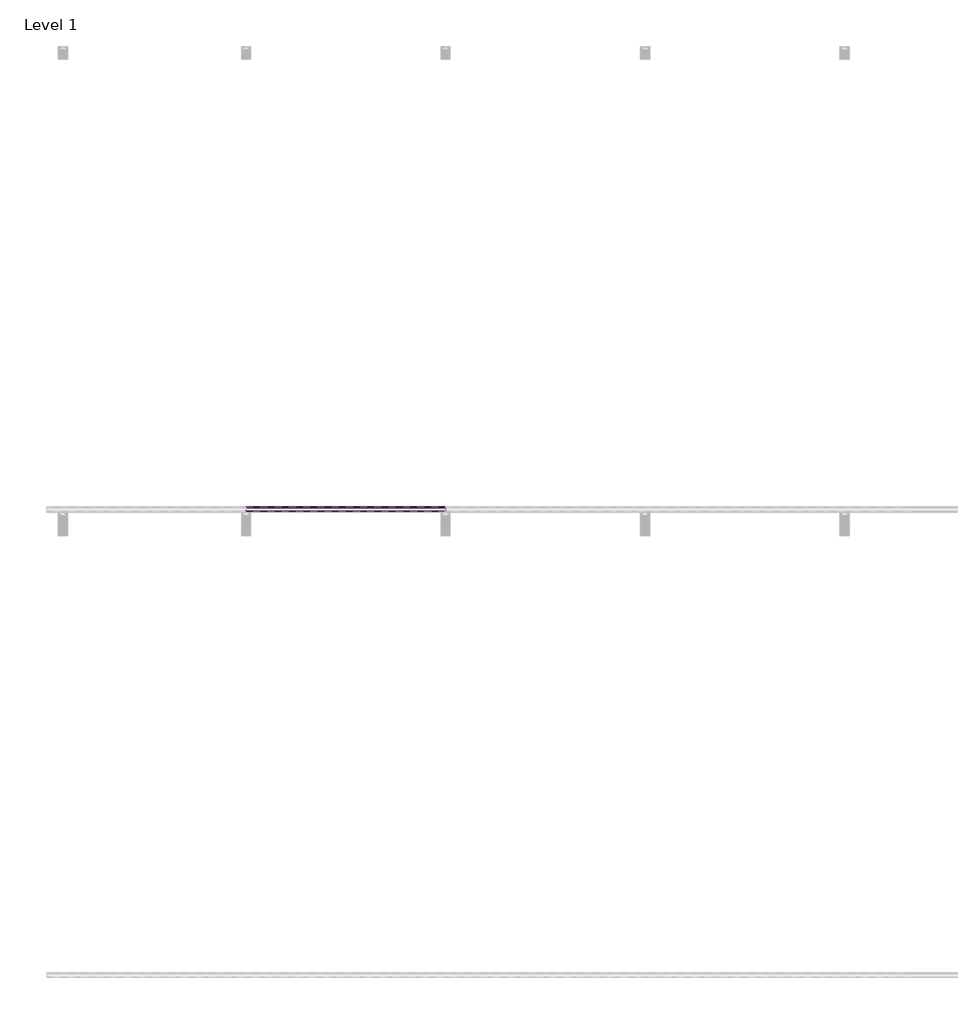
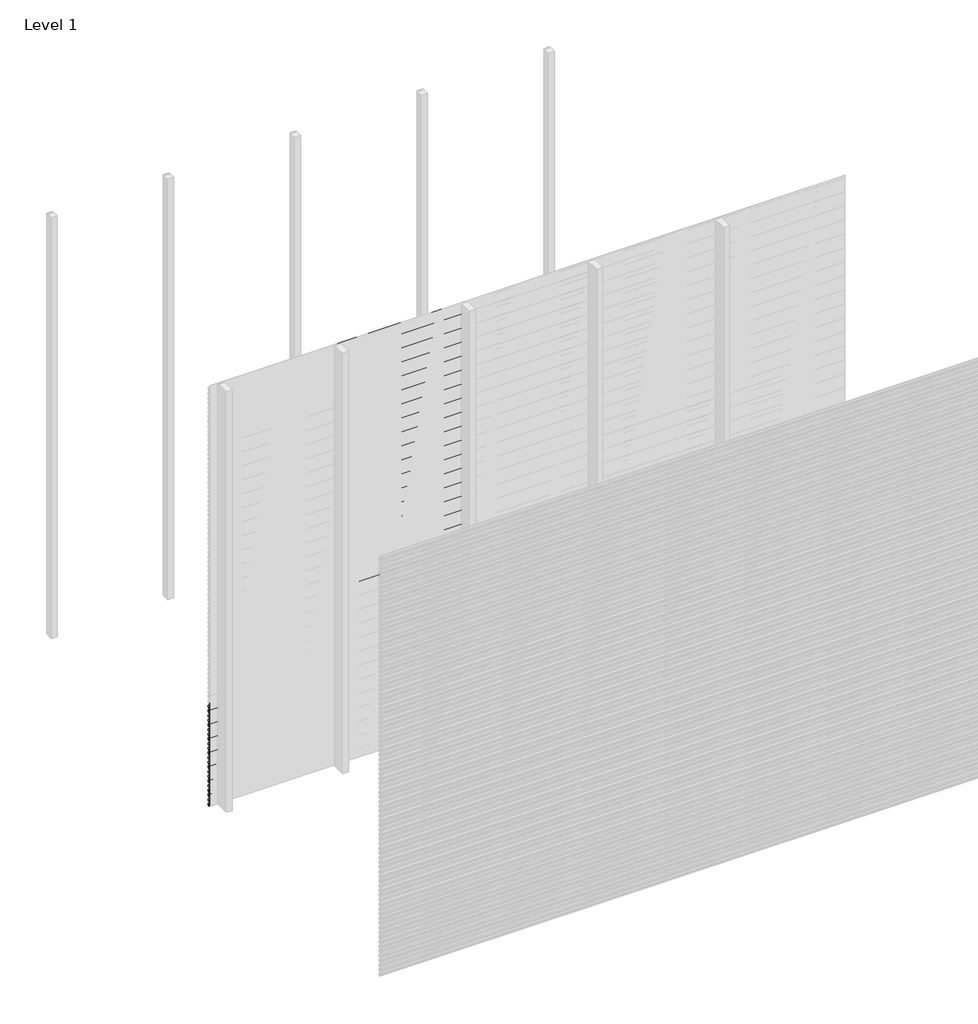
# One storey, part 34 of 96: 77 proxies.
"""IFC4 building model written with IfcOpenShell, lengths in millimetres."""

from ifc_helpers import new_model, si_unit, frame, origin, place, context, project, spatial, polyline, outline, extrude, element, save

model = new_model("IFC4")

# Units and contexts
model_context = context("Model", 3, world=origin())
ifc_project = project(units=[si_unit("LENGTHUNIT", "METRE", prefix="MILLI")], contexts=[model_context])

# Site, building, storey
site = spatial("IfcSite", under=ifc_project)
building = spatial("IfcBuilding", under=site)
storey = spatial("IfcBuildingStorey", under=building, Name="Level 1", Elevation=0.0)

# Proxies
placement = place(None, origin())
element("IfcBuildingElementProxy", 1, Name="Wall Sweeps", at=placement, inside=storey, context=model_context, shape_type="SweptSolid", body=[
    extrude(outline(polyline([(-35977.6, 707.3655033), (-35977.6, 693.0779188), (-35982.4114965, 690.3), (-35982.4114965, 691.5701706), (-35978.85, 693.6264016), (-35978.85, 706.6437382), (-35998.0, 717.7000799), (-35998.0, 732.6), (-35996.75, 732.6), (-35996.75, 718.4217609), (-35977.6, 707.3655033)])), frame((0.0, 0.0, 0.0), z_axis=(1.0, 0.0, 0.0), x_axis=(0.0, 1.0, 0.0)), (0.0, 0.0, 1.0), 857.1428571),
])
element("IfcBuildingElementProxy", 2, Name="Wall Sweeps", at=placement, inside=storey, context=model_context, shape_type="SweptSolid", body=[
    extrude(outline(polyline([(-35977.6, 674.0655033), (-35977.6, 659.7779188), (-35982.4114965, 657.0), (-35982.4114965, 658.2701706), (-35978.85, 660.3264016), (-35978.85, 673.3437382), (-35998.0, 684.4000799), (-35998.0, 699.3), (-35996.75, 699.3), (-35996.75, 685.1217609), (-35977.6, 674.0655033)])), frame((0.0, 0.0, 0.0), z_axis=(1.0, 0.0, 0.0), x_axis=(0.0, 1.0, 0.0)), (0.0, 0.0, 1.0), 857.1428571),
])
element("IfcBuildingElementProxy", 3, Name="Wall Sweeps", at=placement, inside=storey, context=model_context, shape_type="SweptSolid", body=[
    extrude(outline(polyline([(-35977.6, 640.7655033), (-35977.6, 626.4779188), (-35982.4114965, 623.7), (-35982.4114965, 624.9701706), (-35978.85, 627.0264016), (-35978.85, 640.0437382), (-35998.0, 651.1000799), (-35998.0, 666.0), (-35996.75, 666.0), (-35996.75, 651.8217609), (-35977.6, 640.7655033)])), frame((0.0, 0.0, 0.0), z_axis=(1.0, 0.0, 0.0), x_axis=(0.0, 1.0, 0.0)), (0.0, 0.0, 1.0), 857.1428571),
])
element("IfcBuildingElementProxy", 4, Name="Wall Sweeps", at=placement, inside=storey, context=model_context, shape_type="SweptSolid", body=[
    extrude(outline(polyline([(-35977.6, 607.4655033), (-35977.6, 593.1779188), (-35982.4114965, 590.4), (-35982.4114965, 591.6701706), (-35978.85, 593.7264016), (-35978.85, 606.7437382), (-35998.0, 617.8000799), (-35998.0, 632.7), (-35996.75, 632.7), (-35996.75, 618.5217609), (-35977.6, 607.4655033)])), frame((0.0, 0.0, 0.0), z_axis=(1.0, 0.0, 0.0), x_axis=(0.0, 1.0, 0.0)), (0.0, 0.0, 1.0), 857.1428571),
])
element("IfcBuildingElementProxy", 5, Name="Wall Sweeps", at=placement, inside=storey, context=model_context, shape_type="SweptSolid", body=[
    extrude(outline(polyline([(-35977.6, 574.1655033), (-35977.6, 559.8779188), (-35982.4114965, 557.1), (-35982.4114965, 558.3701706), (-35978.85, 560.4264016), (-35978.85, 573.4437382), (-35998.0, 584.5000799), (-35998.0, 599.4), (-35996.75, 599.4), (-35996.75, 585.2217609), (-35977.6, 574.1655033)])), frame((0.0, 0.0, 0.0), z_axis=(1.0, 0.0, 0.0), x_axis=(0.0, 1.0, 0.0)), (0.0, 0.0, 1.0), 857.1428571),
])
element("IfcBuildingElementProxy", 6, Name="Wall Sweeps", at=placement, inside=storey, context=model_context, shape_type="SweptSolid", body=[
    extrude(outline(polyline([(-35977.6, 540.8655033), (-35977.6, 526.5779188), (-35982.4114965, 523.8), (-35982.4114965, 525.0701706), (-35978.85, 527.1264016), (-35978.85, 540.1437382), (-35998.0, 551.2000799), (-35998.0, 566.1), (-35996.75, 566.1), (-35996.75, 551.9217609), (-35977.6, 540.8655033)])), frame((0.0, 0.0, 0.0), z_axis=(1.0, 0.0, 0.0), x_axis=(0.0, 1.0, 0.0)), (0.0, 0.0, 1.0), 857.1428571),
])
element("IfcBuildingElementProxy", 7, Name="Wall Sweeps", at=placement, inside=storey, context=model_context, shape_type="SweptSolid", body=[
    extrude(outline(polyline([(-35977.6, 507.5655033), (-35977.6, 493.2779188), (-35982.4114965, 490.5), (-35982.4114965, 491.7701706), (-35978.85, 493.8264016), (-35978.85, 506.8437382), (-35998.0, 517.9000799), (-35998.0, 532.8), (-35996.75, 532.8), (-35996.75, 518.6217609), (-35977.6, 507.5655033)])), frame((0.0, 0.0, 0.0), z_axis=(1.0, 0.0, 0.0), x_axis=(0.0, 1.0, 0.0)), (0.0, 0.0, 1.0), 857.1428571),
])
element("IfcBuildingElementProxy", 8, Name="Wall Sweeps", at=placement, inside=storey, context=model_context, shape_type="SweptSolid", body=[
    extrude(outline(polyline([(-35977.6, 474.2655033), (-35977.6, 459.9779188), (-35982.4114965, 457.2), (-35982.4114965, 458.4701706), (-35978.85, 460.5264016), (-35978.85, 473.5437382), (-35998.0, 484.6000799), (-35998.0, 499.5), (-35996.75, 499.5), (-35996.75, 485.3217609), (-35977.6, 474.2655033)])), frame((0.0, 0.0, 0.0), z_axis=(1.0, 0.0, 0.0), x_axis=(0.0, 1.0, 0.0)), (0.0, 0.0, 1.0), 857.1428571),
])
element("IfcBuildingElementProxy", 9, Name="Wall Sweeps", at=placement, inside=storey, context=model_context, shape_type="SweptSolid", body=[
    extrude(outline(polyline([(-35977.6, 440.9655033), (-35977.6, 426.6779188), (-35982.4114965, 423.9), (-35982.4114965, 425.1701706), (-35978.85, 427.2264016), (-35978.85, 440.2437382), (-35998.0, 451.3000799), (-35998.0, 466.2), (-35996.75, 466.2), (-35996.75, 452.0217609), (-35977.6, 440.9655033)])), frame((0.0, 0.0, 0.0), z_axis=(1.0, 0.0, 0.0), x_axis=(0.0, 1.0, 0.0)), (0.0, 0.0, 1.0), 857.1428571),
])
element("IfcBuildingElementProxy", 10, Name="Wall Sweeps", at=placement, inside=storey, context=model_context, shape_type="SweptSolid", body=[
    extrude(outline(polyline([(-35977.6, 407.6655033), (-35977.6, 393.3779188), (-35982.4114965, 390.6), (-35982.4114965, 391.8701706), (-35978.85, 393.9264016), (-35978.85, 406.9437382), (-35998.0, 418.0000799), (-35998.0, 432.9), (-35996.75, 432.9), (-35996.75, 418.7217609), (-35977.6, 407.6655033)])), frame((0.0, 0.0, 0.0), z_axis=(1.0, 0.0, 0.0), x_axis=(0.0, 1.0, 0.0)), (0.0, 0.0, 1.0), 857.1428571),
])
element("IfcBuildingElementProxy", 11, Name="Wall Sweeps", at=placement, inside=storey, context=model_context, shape_type="SweptSolid", body=[
    extrude(outline(polyline([(-35977.6, 374.3655033), (-35977.6, 360.0779188), (-35982.4114965, 357.3), (-35982.4114965, 358.5701706), (-35978.85, 360.6264016), (-35978.85, 373.6437382), (-35998.0, 384.7000799), (-35998.0, 399.6), (-35996.75, 399.6), (-35996.75, 385.4217609), (-35977.6, 374.3655033)])), frame((0.0, 0.0, 0.0), z_axis=(1.0, 0.0, 0.0), x_axis=(0.0, 1.0, 0.0)), (0.0, 0.0, 1.0), 857.1428571),
])
element("IfcBuildingElementProxy", 12, Name="Wall Sweeps", at=placement, inside=storey, context=model_context, shape_type="SweptSolid", body=[
    extrude(outline(polyline([(-35977.6, 341.0655033), (-35977.6, 326.7779188), (-35982.4114965, 324.0), (-35982.4114965, 325.2701706), (-35978.85, 327.3264016), (-35978.85, 340.3437382), (-35998.0, 351.4000799), (-35998.0, 366.3), (-35996.75, 366.3), (-35996.75, 352.1217609), (-35977.6, 341.0655033)])), frame((0.0, 0.0, 0.0), z_axis=(1.0, 0.0, 0.0), x_axis=(0.0, 1.0, 0.0)), (0.0, 0.0, 1.0), 857.1428571),
])
element("IfcBuildingElementProxy", 13, Name="Wall Sweeps", at=placement, inside=storey, context=model_context, shape_type="SweptSolid", body=[
    extrude(outline(polyline([(-35977.6, 307.7655033), (-35977.6, 293.4779188), (-35982.4114965, 290.7), (-35982.4114965, 291.9701706), (-35978.85, 294.0264016), (-35978.85, 307.0437382), (-35998.0, 318.1000799), (-35998.0, 333.0), (-35996.75, 333.0), (-35996.75, 318.8217609), (-35977.6, 307.7655033)])), frame((0.0, 0.0, 0.0), z_axis=(1.0, 0.0, 0.0), x_axis=(0.0, 1.0, 0.0)), (0.0, 0.0, 1.0), 857.1428571),
])
element("IfcBuildingElementProxy", 14, Name="Wall Sweeps", at=placement, inside=storey, context=model_context, shape_type="SweptSolid", body=[
    extrude(outline(polyline([(-35977.6, 274.4655033), (-35977.6, 260.1779188), (-35982.4114965, 257.4), (-35982.4114965, 258.6701706), (-35978.85, 260.7264016), (-35978.85, 273.7437382), (-35998.0, 284.8000799), (-35998.0, 299.7), (-35996.75, 299.7), (-35996.75, 285.5217609), (-35977.6, 274.4655033)])), frame((0.0, 0.0, 0.0), z_axis=(1.0, 0.0, 0.0), x_axis=(0.0, 1.0, 0.0)), (0.0, 0.0, 1.0), 857.1428571),
])
element("IfcBuildingElementProxy", 15, Name="Wall Sweeps", at=placement, inside=storey, context=model_context, shape_type="SweptSolid", body=[
    extrude(outline(polyline([(-35977.6, 241.1655033), (-35977.6, 226.8779188), (-35982.4114965, 224.1), (-35982.4114965, 225.3701706), (-35978.85, 227.4264016), (-35978.85, 240.4437382), (-35998.0, 251.5000799), (-35998.0, 266.4), (-35996.75, 266.4), (-35996.75, 252.2217609), (-35977.6, 241.1655033)])), frame((0.0, 0.0, 0.0), z_axis=(1.0, 0.0, 0.0), x_axis=(0.0, 1.0, 0.0)), (0.0, 0.0, 1.0), 857.1428571),
])
element("IfcBuildingElementProxy", 16, Name="Wall Sweeps", at=placement, inside=storey, context=model_context, shape_type="SweptSolid", body=[
    extrude(outline(polyline([(-35977.6, 207.8655033), (-35977.6, 193.5779188), (-35982.4114965, 190.8), (-35982.4114965, 192.0701706), (-35978.85, 194.1264016), (-35978.85, 207.1437382), (-35998.0, 218.2000799), (-35998.0, 233.1), (-35996.75, 233.1), (-35996.75, 218.9217609), (-35977.6, 207.8655033)])), frame((0.0, 0.0, 0.0), z_axis=(1.0, 0.0, 0.0), x_axis=(0.0, 1.0, 0.0)), (0.0, 0.0, 1.0), 857.1428571),
])
element("IfcBuildingElementProxy", 17, Name="Wall Sweeps", at=placement, inside=storey, context=model_context, shape_type="SweptSolid", body=[
    extrude(outline(polyline([(-35977.6, 174.5655033), (-35977.6, 160.2779188), (-35982.4114965, 157.5), (-35982.4114965, 158.7701706), (-35978.85, 160.8264016), (-35978.85, 173.8437382), (-35998.0, 184.9000799), (-35998.0, 199.8), (-35996.75, 199.8), (-35996.75, 185.6217609), (-35977.6, 174.5655033)])), frame((0.0, 0.0, 0.0), z_axis=(1.0, 0.0, 0.0), x_axis=(0.0, 1.0, 0.0)), (0.0, 0.0, 1.0), 857.1428571),
])
element("IfcBuildingElementProxy", 18, Name="Wall Sweeps", at=placement, inside=storey, context=model_context, shape_type="SweptSolid", body=[
    extrude(outline(polyline([(-35977.6, 141.2655033), (-35977.6, 126.9779188), (-35982.4114965, 124.2), (-35982.4114965, 125.4701706), (-35978.85, 127.5264016), (-35978.85, 140.5437382), (-35998.0, 151.6000799), (-35998.0, 166.5), (-35996.75, 166.5), (-35996.75, 152.3217609), (-35977.6, 141.2655033)])), frame((0.0, 0.0, 0.0), z_axis=(1.0, 0.0, 0.0), x_axis=(0.0, 1.0, 0.0)), (0.0, 0.0, 1.0), 857.1428571),
])
element("IfcBuildingElementProxy", 19, Name="Wall Sweeps", at=placement, inside=storey, context=model_context, shape_type="SweptSolid", body=[
    extrude(outline(polyline([(-35977.6, 107.9655033), (-35977.6, 93.6779188), (-35982.4114965, 90.9), (-35982.4114965, 92.1701706), (-35978.85, 94.2264016), (-35978.85, 107.2437382), (-35998.0, 118.3000799), (-35998.0, 133.2), (-35996.75, 133.2), (-35996.75, 119.0217609), (-35977.6, 107.9655033)])), frame((0.0, 0.0, 0.0), z_axis=(1.0, 0.0, 0.0), x_axis=(0.0, 1.0, 0.0)), (0.0, 0.0, 1.0), 857.1428571),
])
element("IfcBuildingElementProxy", 20, Name="Wall Sweeps", at=placement, inside=storey, context=model_context, shape_type="SweptSolid", body=[
    extrude(outline(polyline([(-35977.6, 74.6655033), (-35977.6, 60.3779188), (-35982.4114965, 57.6), (-35982.4114965, 58.8701706), (-35978.85, 60.9264016), (-35978.85, 73.9437382), (-35998.0, 85.0000799), (-35998.0, 99.9), (-35996.75, 99.9), (-35996.75, 85.7217609), (-35977.6, 74.6655033)])), frame((0.0, 0.0, 0.0), z_axis=(1.0, 0.0, 0.0), x_axis=(0.0, 1.0, 0.0)), (0.0, 0.0, 1.0), 857.1428571),
])
element("IfcBuildingElementProxy", 21, Name="Wall Sweeps", at=placement, inside=storey, context=model_context, shape_type="SweptSolid", body=[
    extrude(outline(polyline([(-35977.6, 41.3655033), (-35977.6, 27.0779188), (-35982.4114965, 24.3), (-35982.4114965, 25.5701706), (-35978.85, 27.6264016), (-35978.85, 40.6437382), (-35998.0, 51.7000799), (-35998.0, 66.6), (-35996.75, 66.6), (-35996.75, 52.4217609), (-35977.6, 41.3655033)])), frame((0.0, 0.0, 0.0), z_axis=(1.0, 0.0, 0.0), x_axis=(0.0, 1.0, 0.0)), (0.0, 0.0, 1.0), 857.1428571),
])
element("IfcBuildingElementProxy", 22, Name="Wall Sweeps", at=placement, inside=storey, context=model_context, shape_type="SweptSolid", body=[
    extrude(outline(polyline([(-35977.6, 8.0655033), (-35977.6, -6.2220812), (-35982.4114965, -9.0), (-35982.4114965, -7.7298294), (-35978.85, -5.6735984), (-35978.85, 7.3437382), (-35998.0, 18.4000799), (-35998.0, 33.3), (-35996.75, 33.3), (-35996.75, 19.1217609), (-35977.6, 8.0655033)])), frame((0.0, 0.0, 0.0), z_axis=(1.0, 0.0, 0.0), x_axis=(0.0, 1.0, 0.0)), (0.0, 0.0, 1.0), 857.1428571),
])
element("IfcBuildingElementProxy", 23, Name="Wall Sweeps", at=placement, inside=storey, context=model_context, shape_type="SweptSolid", body=[
    extrude(outline(polyline([(-35977.6, 2971.7655033), (-35977.6, 2957.4779188), (-35982.4114965, 2954.7), (-35982.4114965, 2955.9701706), (-35978.85, 2958.0264016), (-35978.85, 2971.0437382), (-35998.0, 2982.1000799), (-35998.0, 2997.0), (-35996.75, 2997.0), (-35996.75, 2982.8217609), (-35977.6, 2971.7655033)])), frame((857.1428571, 0.0, 0.0), z_axis=(1.0, 0.0, 0.0), x_axis=(0.0, 1.0, 0.0)), (0.0, 0.0, 1.0), 857.1428571),
])
element("IfcBuildingElementProxy", 24, Name="Wall Sweeps", at=placement, inside=storey, context=model_context, shape_type="SweptSolid", body=[
    extrude(outline(polyline([(-35977.6, 2938.4655033), (-35977.6, 2924.1779188), (-35982.4114965, 2921.4), (-35982.4114965, 2922.6701706), (-35978.85, 2924.7264016), (-35978.85, 2937.7437382), (-35998.0, 2948.8000799), (-35998.0, 2963.7), (-35996.75, 2963.7), (-35996.75, 2949.5217609), (-35977.6, 2938.4655033)])), frame((857.1428571, 0.0, 0.0), z_axis=(1.0, 0.0, 0.0), x_axis=(0.0, 1.0, 0.0)), (0.0, 0.0, 1.0), 857.1428571),
])
element("IfcBuildingElementProxy", 25, Name="Wall Sweeps", at=placement, inside=storey, context=model_context, shape_type="SweptSolid", body=[
    extrude(outline(polyline([(-35977.6, 2905.1655033), (-35977.6, 2890.8779188), (-35982.4114965, 2888.1), (-35982.4114965, 2889.3701706), (-35978.85, 2891.4264016), (-35978.85, 2904.4437382), (-35998.0, 2915.5000799), (-35998.0, 2930.4), (-35996.75, 2930.4), (-35996.75, 2916.2217609), (-35977.6, 2905.1655033)])), frame((857.1428571, 0.0, 0.0), z_axis=(1.0, 0.0, 0.0), x_axis=(0.0, 1.0, 0.0)), (0.0, 0.0, 1.0), 857.1428571),
])
element("IfcBuildingElementProxy", 26, Name="Wall Sweeps", at=placement, inside=storey, context=model_context, shape_type="SweptSolid", body=[
    extrude(outline(polyline([(-35977.6, 2871.8655033), (-35977.6, 2857.5779188), (-35982.4114965, 2854.8), (-35982.4114965, 2856.0701706), (-35978.85, 2858.1264016), (-35978.85, 2871.1437382), (-35998.0, 2882.2000799), (-35998.0, 2897.1), (-35996.75, 2897.1), (-35996.75, 2882.9217609), (-35977.6, 2871.8655033)])), frame((857.1428571, 0.0, 0.0), z_axis=(1.0, 0.0, 0.0), x_axis=(0.0, 1.0, 0.0)), (0.0, 0.0, 1.0), 857.1428571),
])
element("IfcBuildingElementProxy", 27, Name="Wall Sweeps", at=placement, inside=storey, context=model_context, shape_type="SweptSolid", body=[
    extrude(outline(polyline([(-35977.6, 2838.5655033), (-35977.6, 2824.2779188), (-35982.4114965, 2821.5), (-35982.4114965, 2822.7701706), (-35978.85, 2824.8264016), (-35978.85, 2837.8437382), (-35998.0, 2848.9000799), (-35998.0, 2863.8), (-35996.75, 2863.8), (-35996.75, 2849.6217609), (-35977.6, 2838.5655033)])), frame((857.1428571, 0.0, 0.0), z_axis=(1.0, 0.0, 0.0), x_axis=(0.0, 1.0, 0.0)), (0.0, 0.0, 1.0), 857.1428571),
])
element("IfcBuildingElementProxy", 28, Name="Wall Sweeps", at=placement, inside=storey, context=model_context, shape_type="SweptSolid", body=[
    extrude(outline(polyline([(-35977.6, 2805.2655033), (-35977.6, 2790.9779188), (-35982.4114965, 2788.2), (-35982.4114965, 2789.4701706), (-35978.85, 2791.5264016), (-35978.85, 2804.5437382), (-35998.0, 2815.6000799), (-35998.0, 2830.5), (-35996.75, 2830.5), (-35996.75, 2816.3217609), (-35977.6, 2805.2655033)])), frame((857.1428571, 0.0, 0.0), z_axis=(1.0, 0.0, 0.0), x_axis=(0.0, 1.0, 0.0)), (0.0, 0.0, 1.0), 857.1428571),
])
element("IfcBuildingElementProxy", 29, Name="Wall Sweeps", at=placement, inside=storey, context=model_context, shape_type="SweptSolid", body=[
    extrude(outline(polyline([(-35977.6, 2771.9655033), (-35977.6, 2757.6779188), (-35982.4114965, 2754.9), (-35982.4114965, 2756.1701706), (-35978.85, 2758.2264016), (-35978.85, 2771.2437382), (-35998.0, 2782.3000799), (-35998.0, 2797.2), (-35996.75, 2797.2), (-35996.75, 2783.0217609), (-35977.6, 2771.9655033)])), frame((857.1428571, 0.0, 0.0), z_axis=(1.0, 0.0, 0.0), x_axis=(0.0, 1.0, 0.0)), (0.0, 0.0, 1.0), 857.1428571),
])
element("IfcBuildingElementProxy", 30, Name="Wall Sweeps", at=placement, inside=storey, context=model_context, shape_type="SweptSolid", body=[
    extrude(outline(polyline([(-35977.6, 2738.6655033), (-35977.6, 2724.3779188), (-35982.4114965, 2721.6), (-35982.4114965, 2722.8701706), (-35978.85, 2724.9264016), (-35978.85, 2737.9437382), (-35998.0, 2749.0000799), (-35998.0, 2763.9), (-35996.75, 2763.9), (-35996.75, 2749.7217609), (-35977.6, 2738.6655033)])), frame((857.1428571, 0.0, 0.0), z_axis=(1.0, 0.0, 0.0), x_axis=(0.0, 1.0, 0.0)), (0.0, 0.0, 1.0), 857.1428571),
])
element("IfcBuildingElementProxy", 31, Name="Wall Sweeps", at=placement, inside=storey, context=model_context, shape_type="SweptSolid", body=[
    extrude(outline(polyline([(-35977.6, 2705.3655033), (-35977.6, 2691.0779188), (-35982.4114965, 2688.3), (-35982.4114965, 2689.5701706), (-35978.85, 2691.6264016), (-35978.85, 2704.6437382), (-35998.0, 2715.7000799), (-35998.0, 2730.6), (-35996.75, 2730.6), (-35996.75, 2716.4217609), (-35977.6, 2705.3655033)])), frame((857.1428571, 0.0, 0.0), z_axis=(1.0, 0.0, 0.0), x_axis=(0.0, 1.0, 0.0)), (0.0, 0.0, 1.0), 857.1428571),
])
element("IfcBuildingElementProxy", 32, Name="Wall Sweeps", at=placement, inside=storey, context=model_context, shape_type="SweptSolid", body=[
    extrude(outline(polyline([(-35977.6, 2672.0655033), (-35977.6, 2657.7779188), (-35982.4114965, 2655.0), (-35982.4114965, 2656.2701706), (-35978.85, 2658.3264016), (-35978.85, 2671.3437382), (-35998.0, 2682.4000799), (-35998.0, 2697.3), (-35996.75, 2697.3), (-35996.75, 2683.1217609), (-35977.6, 2672.0655033)])), frame((857.1428571, 0.0, 0.0), z_axis=(1.0, 0.0, 0.0), x_axis=(0.0, 1.0, 0.0)), (0.0, 0.0, 1.0), 857.1428571),
])
element("IfcBuildingElementProxy", 33, Name="Wall Sweeps", at=placement, inside=storey, context=model_context, shape_type="SweptSolid", body=[
    extrude(outline(polyline([(-35977.6, 2638.7655033), (-35977.6, 2624.4779188), (-35982.4114965, 2621.7), (-35982.4114965, 2622.9701706), (-35978.85, 2625.0264016), (-35978.85, 2638.0437382), (-35998.0, 2649.1000799), (-35998.0, 2664.0), (-35996.75, 2664.0), (-35996.75, 2649.8217609), (-35977.6, 2638.7655033)])), frame((857.1428571, 0.0, 0.0), z_axis=(1.0, 0.0, 0.0), x_axis=(0.0, 1.0, 0.0)), (0.0, 0.0, 1.0), 857.1428571),
])
element("IfcBuildingElementProxy", 34, Name="Wall Sweeps", at=placement, inside=storey, context=model_context, shape_type="SweptSolid", body=[
    extrude(outline(polyline([(-35977.6, 2605.4655033), (-35977.6, 2591.1779188), (-35982.4114965, 2588.4), (-35982.4114965, 2589.6701706), (-35978.85, 2591.7264016), (-35978.85, 2604.7437382), (-35998.0, 2615.8000799), (-35998.0, 2630.7), (-35996.75, 2630.7), (-35996.75, 2616.5217609), (-35977.6, 2605.4655033)])), frame((857.1428571, 0.0, 0.0), z_axis=(1.0, 0.0, 0.0), x_axis=(0.0, 1.0, 0.0)), (0.0, 0.0, 1.0), 857.1428571),
])
element("IfcBuildingElementProxy", 35, Name="Wall Sweeps", at=placement, inside=storey, context=model_context, shape_type="SweptSolid", body=[
    extrude(outline(polyline([(-35977.6, 2572.1655033), (-35977.6, 2557.8779188), (-35982.4114965, 2555.1), (-35982.4114965, 2556.3701706), (-35978.85, 2558.4264016), (-35978.85, 2571.4437382), (-35998.0, 2582.5000799), (-35998.0, 2597.4), (-35996.75, 2597.4), (-35996.75, 2583.2217609), (-35977.6, 2572.1655033)])), frame((857.1428571, 0.0, 0.0), z_axis=(1.0, 0.0, 0.0), x_axis=(0.0, 1.0, 0.0)), (0.0, 0.0, 1.0), 857.1428571),
])
element("IfcBuildingElementProxy", 36, Name="Wall Sweeps", at=placement, inside=storey, context=model_context, shape_type="SweptSolid", body=[
    extrude(outline(polyline([(-35977.6, 2538.8655033), (-35977.6, 2524.5779188), (-35982.4114965, 2521.8), (-35982.4114965, 2523.0701706), (-35978.85, 2525.1264016), (-35978.85, 2538.1437382), (-35998.0, 2549.2000799), (-35998.0, 2564.1), (-35996.75, 2564.1), (-35996.75, 2549.9217609), (-35977.6, 2538.8655033)])), frame((857.1428571, 0.0, 0.0), z_axis=(1.0, 0.0, 0.0), x_axis=(0.0, 1.0, 0.0)), (0.0, 0.0, 1.0), 857.1428571),
])
element("IfcBuildingElementProxy", 37, Name="Wall Sweeps", at=placement, inside=storey, context=model_context, shape_type="SweptSolid", body=[
    extrude(outline(polyline([(-35977.6, 2505.5655033), (-35977.6, 2491.2779188), (-35982.4114965, 2488.5), (-35982.4114965, 2489.7701706), (-35978.85, 2491.8264016), (-35978.85, 2504.8437382), (-35998.0, 2515.9000799), (-35998.0, 2530.8), (-35996.75, 2530.8), (-35996.75, 2516.6217609), (-35977.6, 2505.5655033)])), frame((857.1428571, 0.0, 0.0), z_axis=(1.0, 0.0, 0.0), x_axis=(0.0, 1.0, 0.0)), (0.0, 0.0, 1.0), 857.1428571),
])
element("IfcBuildingElementProxy", 38, Name="Wall Sweeps", at=placement, inside=storey, context=model_context, shape_type="SweptSolid", body=[
    extrude(outline(polyline([(-35977.6, 2472.2655033), (-35977.6, 2457.9779188), (-35982.4114965, 2455.2), (-35982.4114965, 2456.4701706), (-35978.85, 2458.5264016), (-35978.85, 2471.5437382), (-35998.0, 2482.6000799), (-35998.0, 2497.5), (-35996.75, 2497.5), (-35996.75, 2483.3217609), (-35977.6, 2472.2655033)])), frame((857.1428571, 0.0, 0.0), z_axis=(1.0, 0.0, 0.0), x_axis=(0.0, 1.0, 0.0)), (0.0, 0.0, 1.0), 857.1428571),
])
element("IfcBuildingElementProxy", 39, Name="Wall Sweeps", at=placement, inside=storey, context=model_context, shape_type="SweptSolid", body=[
    extrude(outline(polyline([(-35977.6, 2438.9655033), (-35977.6, 2424.6779188), (-35982.4114965, 2421.9), (-35982.4114965, 2423.1701706), (-35978.85, 2425.2264016), (-35978.85, 2438.2437382), (-35998.0, 2449.3000799), (-35998.0, 2464.2), (-35996.75, 2464.2), (-35996.75, 2450.0217609), (-35977.6, 2438.9655033)])), frame((857.1428571, 0.0, 0.0), z_axis=(1.0, 0.0, 0.0), x_axis=(0.0, 1.0, 0.0)), (0.0, 0.0, 1.0), 857.1428571),
])
element("IfcBuildingElementProxy", 40, Name="Wall Sweeps", at=placement, inside=storey, context=model_context, shape_type="SweptSolid", body=[
    extrude(outline(polyline([(-35977.6, 2405.6655033), (-35977.6, 2391.3779188), (-35982.4114965, 2388.6), (-35982.4114965, 2389.8701706), (-35978.85, 2391.9264016), (-35978.85, 2404.9437382), (-35998.0, 2416.0000799), (-35998.0, 2430.9), (-35996.75, 2430.9), (-35996.75, 2416.7217609), (-35977.6, 2405.6655033)])), frame((857.1428571, 0.0, 0.0), z_axis=(1.0, 0.0, 0.0), x_axis=(0.0, 1.0, 0.0)), (0.0, 0.0, 1.0), 857.1428571),
])
element("IfcBuildingElementProxy", 41, Name="Wall Sweeps", at=placement, inside=storey, context=model_context, shape_type="SweptSolid", body=[
    extrude(outline(polyline([(-35977.6, 2372.3655033), (-35977.6, 2358.0779188), (-35982.4114965, 2355.3), (-35982.4114965, 2356.5701706), (-35978.85, 2358.6264016), (-35978.85, 2371.6437382), (-35998.0, 2382.7000799), (-35998.0, 2397.6), (-35996.75, 2397.6), (-35996.75, 2383.4217609), (-35977.6, 2372.3655033)])), frame((857.1428571, 0.0, 0.0), z_axis=(1.0, 0.0, 0.0), x_axis=(0.0, 1.0, 0.0)), (0.0, 0.0, 1.0), 857.1428571),
])
element("IfcBuildingElementProxy", 42, Name="Wall Sweeps", at=placement, inside=storey, context=model_context, shape_type="SweptSolid", body=[
    extrude(outline(polyline([(-35977.6, 2339.0655033), (-35977.6, 2324.7779188), (-35982.4114965, 2322.0), (-35982.4114965, 2323.2701706), (-35978.85, 2325.3264016), (-35978.85, 2338.3437382), (-35998.0, 2349.4000799), (-35998.0, 2364.3), (-35996.75, 2364.3), (-35996.75, 2350.1217609), (-35977.6, 2339.0655033)])), frame((857.1428571, 0.0, 0.0), z_axis=(1.0, 0.0, 0.0), x_axis=(0.0, 1.0, 0.0)), (0.0, 0.0, 1.0), 857.1428571),
])
element("IfcBuildingElementProxy", 43, Name="Wall Sweeps", at=placement, inside=storey, context=model_context, shape_type="SweptSolid", body=[
    extrude(outline(polyline([(-35977.6, 2305.7655033), (-35977.6, 2291.4779188), (-35982.4114965, 2288.7), (-35982.4114965, 2289.9701706), (-35978.85, 2292.0264016), (-35978.85, 2305.0437382), (-35998.0, 2316.1000799), (-35998.0, 2331.0), (-35996.75, 2331.0), (-35996.75, 2316.8217609), (-35977.6, 2305.7655033)])), frame((857.1428571, 0.0, 0.0), z_axis=(1.0, 0.0, 0.0), x_axis=(0.0, 1.0, 0.0)), (0.0, 0.0, 1.0), 857.1428571),
])
element("IfcBuildingElementProxy", 44, Name="Wall Sweeps", at=placement, inside=storey, context=model_context, shape_type="SweptSolid", body=[
    extrude(outline(polyline([(-35977.6, 2272.4655033), (-35977.6, 2258.1779188), (-35982.4114965, 2255.4), (-35982.4114965, 2256.6701706), (-35978.85, 2258.7264016), (-35978.85, 2271.7437382), (-35998.0, 2282.8000799), (-35998.0, 2297.7), (-35996.75, 2297.7), (-35996.75, 2283.5217609), (-35977.6, 2272.4655033)])), frame((857.1428571, 0.0, 0.0), z_axis=(1.0, 0.0, 0.0), x_axis=(0.0, 1.0, 0.0)), (0.0, 0.0, 1.0), 857.1428571),
])
element("IfcBuildingElementProxy", 45, Name="Wall Sweeps", at=placement, inside=storey, context=model_context, shape_type="SweptSolid", body=[
    extrude(outline(polyline([(-35977.6, 2239.1655033), (-35977.6, 2224.8779188), (-35982.4114965, 2222.1), (-35982.4114965, 2223.3701706), (-35978.85, 2225.4264016), (-35978.85, 2238.4437382), (-35998.0, 2249.5000799), (-35998.0, 2264.4), (-35996.75, 2264.4), (-35996.75, 2250.2217609), (-35977.6, 2239.1655033)])), frame((857.1428571, 0.0, 0.0), z_axis=(1.0, 0.0, 0.0), x_axis=(0.0, 1.0, 0.0)), (0.0, 0.0, 1.0), 857.1428571),
])
element("IfcBuildingElementProxy", 46, Name="Wall Sweeps", at=placement, inside=storey, context=model_context, shape_type="SweptSolid", body=[
    extrude(outline(polyline([(-35977.6, 2205.8655033), (-35977.6, 2191.5779188), (-35982.4114965, 2188.8), (-35982.4114965, 2190.0701706), (-35978.85, 2192.1264016), (-35978.85, 2205.1437382), (-35998.0, 2216.2000799), (-35998.0, 2231.1), (-35996.75, 2231.1), (-35996.75, 2216.9217609), (-35977.6, 2205.8655033)])), frame((857.1428571, 0.0, 0.0), z_axis=(1.0, 0.0, 0.0), x_axis=(0.0, 1.0, 0.0)), (0.0, 0.0, 1.0), 857.1428571),
])
element("IfcBuildingElementProxy", 47, Name="Wall Sweeps", at=placement, inside=storey, context=model_context, shape_type="SweptSolid", body=[
    extrude(outline(polyline([(-35977.6, 2172.5655033), (-35977.6, 2158.2779188), (-35982.4114965, 2155.5), (-35982.4114965, 2156.7701706), (-35978.85, 2158.8264016), (-35978.85, 2171.8437382), (-35998.0, 2182.9000799), (-35998.0, 2197.8), (-35996.75, 2197.8), (-35996.75, 2183.6217609), (-35977.6, 2172.5655033)])), frame((857.1428571, 0.0, 0.0), z_axis=(1.0, 0.0, 0.0), x_axis=(0.0, 1.0, 0.0)), (0.0, 0.0, 1.0), 857.1428571),
])
element("IfcBuildingElementProxy", 48, Name="Wall Sweeps", at=placement, inside=storey, context=model_context, shape_type="SweptSolid", body=[
    extrude(outline(polyline([(-35977.6, 2139.2655033), (-35977.6, 2124.9779188), (-35982.4114965, 2122.2), (-35982.4114965, 2123.4701706), (-35978.85, 2125.5264016), (-35978.85, 2138.5437382), (-35998.0, 2149.6000799), (-35998.0, 2164.5), (-35996.75, 2164.5), (-35996.75, 2150.3217609), (-35977.6, 2139.2655033)])), frame((857.1428571, 0.0, 0.0), z_axis=(1.0, 0.0, 0.0), x_axis=(0.0, 1.0, 0.0)), (0.0, 0.0, 1.0), 857.1428571),
])
element("IfcBuildingElementProxy", 49, Name="Wall Sweeps", at=placement, inside=storey, context=model_context, shape_type="SweptSolid", body=[
    extrude(outline(polyline([(-35977.6, 2105.9655033), (-35977.6, 2091.6779188), (-35982.4114965, 2088.9), (-35982.4114965, 2090.1701706), (-35978.85, 2092.2264016), (-35978.85, 2105.2437382), (-35998.0, 2116.3000799), (-35998.0, 2131.2), (-35996.75, 2131.2), (-35996.75, 2117.0217609), (-35977.6, 2105.9655033)])), frame((857.1428571, 0.0, 0.0), z_axis=(1.0, 0.0, 0.0), x_axis=(0.0, 1.0, 0.0)), (0.0, 0.0, 1.0), 857.1428571),
])
element("IfcBuildingElementProxy", 50, Name="Wall Sweeps", at=placement, inside=storey, context=model_context, shape_type="SweptSolid", body=[
    extrude(outline(polyline([(-35977.6, 2072.6655033), (-35977.6, 2058.3779188), (-35982.4114965, 2055.6), (-35982.4114965, 2056.8701706), (-35978.85, 2058.9264016), (-35978.85, 2071.9437382), (-35998.0, 2083.0000799), (-35998.0, 2097.9), (-35996.75, 2097.9), (-35996.75, 2083.7217609), (-35977.6, 2072.6655033)])), frame((857.1428571, 0.0, 0.0), z_axis=(1.0, 0.0, 0.0), x_axis=(0.0, 1.0, 0.0)), (0.0, 0.0, 1.0), 857.1428571),
])
element("IfcBuildingElementProxy", 51, Name="Wall Sweeps", at=placement, inside=storey, context=model_context, shape_type="SweptSolid", body=[
    extrude(outline(polyline([(-35977.6, 2039.3655033), (-35977.6, 2025.0779188), (-35982.4114965, 2022.3), (-35982.4114965, 2023.5701706), (-35978.85, 2025.6264016), (-35978.85, 2038.6437382), (-35998.0, 2049.7000799), (-35998.0, 2064.6), (-35996.75, 2064.6), (-35996.75, 2050.4217609), (-35977.6, 2039.3655033)])), frame((857.1428571, 0.0, 0.0), z_axis=(1.0, 0.0, 0.0), x_axis=(0.0, 1.0, 0.0)), (0.0, 0.0, 1.0), 857.1428571),
])
element("IfcBuildingElementProxy", 52, Name="Wall Sweeps", at=placement, inside=storey, context=model_context, shape_type="SweptSolid", body=[
    extrude(outline(polyline([(-35977.6, 2006.0655033), (-35977.6, 1991.7779188), (-35982.4114965, 1989.0), (-35982.4114965, 1990.2701706), (-35978.85, 1992.3264016), (-35978.85, 2005.3437382), (-35998.0, 2016.4000799), (-35998.0, 2031.3), (-35996.75, 2031.3), (-35996.75, 2017.1217609), (-35977.6, 2006.0655033)])), frame((857.1428571, 0.0, 0.0), z_axis=(1.0, 0.0, 0.0), x_axis=(0.0, 1.0, 0.0)), (0.0, 0.0, 1.0), 857.1428571),
])
element("IfcBuildingElementProxy", 53, Name="Wall Sweeps", at=placement, inside=storey, context=model_context, shape_type="SweptSolid", body=[
    extrude(outline(polyline([(-35977.6, 1972.7655033), (-35977.6, 1958.4779188), (-35982.4114965, 1955.7), (-35982.4114965, 1956.9701706), (-35978.85, 1959.0264016), (-35978.85, 1972.0437382), (-35998.0, 1983.1000799), (-35998.0, 1998.0), (-35996.75, 1998.0), (-35996.75, 1983.8217609), (-35977.6, 1972.7655033)])), frame((857.1428571, 0.0, 0.0), z_axis=(1.0, 0.0, 0.0), x_axis=(0.0, 1.0, 0.0)), (0.0, 0.0, 1.0), 857.1428571),
])
element("IfcBuildingElementProxy", 54, Name="Wall Sweeps", at=placement, inside=storey, context=model_context, shape_type="SweptSolid", body=[
    extrude(outline(polyline([(-35977.6, 1939.4655033), (-35977.6, 1925.1779188), (-35982.4114965, 1922.4), (-35982.4114965, 1923.6701706), (-35978.85, 1925.7264016), (-35978.85, 1938.7437382), (-35998.0, 1949.8000799), (-35998.0, 1964.7), (-35996.75, 1964.7), (-35996.75, 1950.5217609), (-35977.6, 1939.4655033)])), frame((857.1428571, 0.0, 0.0), z_axis=(1.0, 0.0, 0.0), x_axis=(0.0, 1.0, 0.0)), (0.0, 0.0, 1.0), 857.1428571),
])
element("IfcBuildingElementProxy", 55, Name="Wall Sweeps", at=placement, inside=storey, context=model_context, shape_type="SweptSolid", body=[
    extrude(outline(polyline([(-35977.6, 1906.1655033), (-35977.6, 1891.8779188), (-35982.4114965, 1889.1), (-35982.4114965, 1890.3701706), (-35978.85, 1892.4264016), (-35978.85, 1905.4437382), (-35998.0, 1916.5000799), (-35998.0, 1931.4), (-35996.75, 1931.4), (-35996.75, 1917.2217609), (-35977.6, 1906.1655033)])), frame((857.1428571, 0.0, 0.0), z_axis=(1.0, 0.0, 0.0), x_axis=(0.0, 1.0, 0.0)), (0.0, 0.0, 1.0), 857.1428571),
])
element("IfcBuildingElementProxy", 56, Name="Wall Sweeps", at=placement, inside=storey, context=model_context, shape_type="SweptSolid", body=[
    extrude(outline(polyline([(-35977.6, 1872.8655033), (-35977.6, 1858.5779188), (-35982.4114965, 1855.8), (-35982.4114965, 1857.0701706), (-35978.85, 1859.1264016), (-35978.85, 1872.1437382), (-35998.0, 1883.2000799), (-35998.0, 1898.1), (-35996.75, 1898.1), (-35996.75, 1883.9217609), (-35977.6, 1872.8655033)])), frame((857.1428571, 0.0, 0.0), z_axis=(1.0, 0.0, 0.0), x_axis=(0.0, 1.0, 0.0)), (0.0, 0.0, 1.0), 857.1428571),
])
element("IfcBuildingElementProxy", 57, Name="Wall Sweeps", at=placement, inside=storey, context=model_context, shape_type="SweptSolid", body=[
    extrude(outline(polyline([(-35977.6, 1839.5655033), (-35977.6, 1825.2779188), (-35982.4114965, 1822.5), (-35982.4114965, 1823.7701706), (-35978.85, 1825.8264016), (-35978.85, 1838.8437382), (-35998.0, 1849.9000799), (-35998.0, 1864.8), (-35996.75, 1864.8), (-35996.75, 1850.6217609), (-35977.6, 1839.5655033)])), frame((857.1428571, 0.0, 0.0), z_axis=(1.0, 0.0, 0.0), x_axis=(0.0, 1.0, 0.0)), (0.0, 0.0, 1.0), 857.1428571),
])
element("IfcBuildingElementProxy", 58, Name="Wall Sweeps", at=placement, inside=storey, context=model_context, shape_type="SweptSolid", body=[
    extrude(outline(polyline([(-35977.6, 1806.2655033), (-35977.6, 1791.9779188), (-35982.4114965, 1789.2), (-35982.4114965, 1790.4701706), (-35978.85, 1792.5264016), (-35978.85, 1805.5437382), (-35998.0, 1816.6000799), (-35998.0, 1831.5), (-35996.75, 1831.5), (-35996.75, 1817.3217609), (-35977.6, 1806.2655033)])), frame((857.1428571, 0.0, 0.0), z_axis=(1.0, 0.0, 0.0), x_axis=(0.0, 1.0, 0.0)), (0.0, 0.0, 1.0), 857.1428571),
])
element("IfcBuildingElementProxy", 59, Name="Wall Sweeps", at=placement, inside=storey, context=model_context, shape_type="SweptSolid", body=[
    extrude(outline(polyline([(-35977.6, 1772.9655033), (-35977.6, 1758.6779188), (-35982.4114965, 1755.9), (-35982.4114965, 1757.1701706), (-35978.85, 1759.2264016), (-35978.85, 1772.2437382), (-35998.0, 1783.3000799), (-35998.0, 1798.2), (-35996.75, 1798.2), (-35996.75, 1784.0217609), (-35977.6, 1772.9655033)])), frame((857.1428571, 0.0, 0.0), z_axis=(1.0, 0.0, 0.0), x_axis=(0.0, 1.0, 0.0)), (0.0, 0.0, 1.0), 857.1428571),
])
element("IfcBuildingElementProxy", 60, Name="Wall Sweeps", at=placement, inside=storey, context=model_context, shape_type="SweptSolid", body=[
    extrude(outline(polyline([(-35977.6, 1739.6655033), (-35977.6, 1725.3779188), (-35982.4114965, 1722.6), (-35982.4114965, 1723.8701706), (-35978.85, 1725.9264016), (-35978.85, 1738.9437382), (-35998.0, 1750.0000799), (-35998.0, 1764.9), (-35996.75, 1764.9), (-35996.75, 1750.7217609), (-35977.6, 1739.6655033)])), frame((857.1428571, 0.0, 0.0), z_axis=(1.0, 0.0, 0.0), x_axis=(0.0, 1.0, 0.0)), (0.0, 0.0, 1.0), 857.1428571),
])
element("IfcBuildingElementProxy", 61, Name="Wall Sweeps", at=placement, inside=storey, context=model_context, shape_type="SweptSolid", body=[
    extrude(outline(polyline([(-35977.6, 1706.3655033), (-35977.6, 1692.0779188), (-35982.4114965, 1689.3), (-35982.4114965, 1690.5701706), (-35978.85, 1692.6264016), (-35978.85, 1705.6437382), (-35998.0, 1716.7000799), (-35998.0, 1731.6), (-35996.75, 1731.6), (-35996.75, 1717.4217609), (-35977.6, 1706.3655033)])), frame((857.1428571, 0.0, 0.0), z_axis=(1.0, 0.0, 0.0), x_axis=(0.0, 1.0, 0.0)), (0.0, 0.0, 1.0), 857.1428571),
])
element("IfcBuildingElementProxy", 62, Name="Wall Sweeps", at=placement, inside=storey, context=model_context, shape_type="SweptSolid", body=[
    extrude(outline(polyline([(-35977.6, 1673.0655033), (-35977.6, 1658.7779188), (-35982.4114965, 1656.0), (-35982.4114965, 1657.2701706), (-35978.85, 1659.3264016), (-35978.85, 1672.3437382), (-35998.0, 1683.4000799), (-35998.0, 1698.3), (-35996.75, 1698.3), (-35996.75, 1684.1217609), (-35977.6, 1673.0655033)])), frame((857.1428571, 0.0, 0.0), z_axis=(1.0, 0.0, 0.0), x_axis=(0.0, 1.0, 0.0)), (0.0, 0.0, 1.0), 857.1428571),
])
element("IfcBuildingElementProxy", 63, Name="Wall Sweeps", at=placement, inside=storey, context=model_context, shape_type="SweptSolid", body=[
    extrude(outline(polyline([(-35977.6, 1639.7655033), (-35977.6, 1625.4779188), (-35982.4114965, 1622.7), (-35982.4114965, 1623.9701706), (-35978.85, 1626.0264016), (-35978.85, 1639.0437382), (-35998.0, 1650.1000799), (-35998.0, 1665.0), (-35996.75, 1665.0), (-35996.75, 1650.8217609), (-35977.6, 1639.7655033)])), frame((857.1428571, 0.0, 0.0), z_axis=(1.0, 0.0, 0.0), x_axis=(0.0, 1.0, 0.0)), (0.0, 0.0, 1.0), 857.1428571),
])
element("IfcBuildingElementProxy", 64, Name="Wall Sweeps", at=placement, inside=storey, context=model_context, shape_type="SweptSolid", body=[
    extrude(outline(polyline([(-35977.6, 1606.4655033), (-35977.6, 1592.1779188), (-35982.4114965, 1589.4), (-35982.4114965, 1590.6701706), (-35978.85, 1592.7264016), (-35978.85, 1605.7437382), (-35998.0, 1616.8000799), (-35998.0, 1631.7), (-35996.75, 1631.7), (-35996.75, 1617.5217609), (-35977.6, 1606.4655033)])), frame((857.1428571, 0.0, 0.0), z_axis=(1.0, 0.0, 0.0), x_axis=(0.0, 1.0, 0.0)), (0.0, 0.0, 1.0), 857.1428571),
])
element("IfcBuildingElementProxy", 65, Name="Wall Sweeps", at=placement, inside=storey, context=model_context, shape_type="SweptSolid", body=[
    extrude(outline(polyline([(-35977.6, 1573.1655033), (-35977.6, 1558.8779188), (-35982.4114965, 1556.1), (-35982.4114965, 1557.3701706), (-35978.85, 1559.4264016), (-35978.85, 1572.4437382), (-35998.0, 1583.5000799), (-35998.0, 1598.4), (-35996.75, 1598.4), (-35996.75, 1584.2217609), (-35977.6, 1573.1655033)])), frame((857.1428571, 0.0, 0.0), z_axis=(1.0, 0.0, 0.0), x_axis=(0.0, 1.0, 0.0)), (0.0, 0.0, 1.0), 857.1428571),
])
element("IfcBuildingElementProxy", 66, Name="Wall Sweeps", at=placement, inside=storey, context=model_context, shape_type="SweptSolid", body=[
    extrude(outline(polyline([(-35977.6, 1539.8655033), (-35977.6, 1525.5779188), (-35982.4114965, 1522.8), (-35982.4114965, 1524.0701706), (-35978.85, 1526.1264016), (-35978.85, 1539.1437382), (-35998.0, 1550.2000799), (-35998.0, 1565.1), (-35996.75, 1565.1), (-35996.75, 1550.9217609), (-35977.6, 1539.8655033)])), frame((857.1428571, 0.0, 0.0), z_axis=(1.0, 0.0, 0.0), x_axis=(0.0, 1.0, 0.0)), (0.0, 0.0, 1.0), 857.1428571),
])
element("IfcBuildingElementProxy", 67, Name="Wall Sweeps", at=placement, inside=storey, context=model_context, shape_type="SweptSolid", body=[
    extrude(outline(polyline([(-35977.6, 1506.5655033), (-35977.6, 1492.2779188), (-35982.4114965, 1489.5), (-35982.4114965, 1490.7701706), (-35978.85, 1492.8264016), (-35978.85, 1505.8437382), (-35998.0, 1516.9000799), (-35998.0, 1531.8), (-35996.75, 1531.8), (-35996.75, 1517.6217609), (-35977.6, 1506.5655033)])), frame((857.1428571, 0.0, 0.0), z_axis=(1.0, 0.0, 0.0), x_axis=(0.0, 1.0, 0.0)), (0.0, 0.0, 1.0), 857.1428571),
])
element("IfcBuildingElementProxy", 68, Name="Wall Sweeps", at=placement, inside=storey, context=model_context, shape_type="SweptSolid", body=[
    extrude(outline(polyline([(-35977.6, 1473.2655033), (-35977.6, 1458.9779188), (-35982.4114965, 1456.2), (-35982.4114965, 1457.4701706), (-35978.85, 1459.5264016), (-35978.85, 1472.5437382), (-35998.0, 1483.6000799), (-35998.0, 1498.5), (-35996.75, 1498.5), (-35996.75, 1484.3217609), (-35977.6, 1473.2655033)])), frame((857.1428571, 0.0, 0.0), z_axis=(1.0, 0.0, 0.0), x_axis=(0.0, 1.0, 0.0)), (0.0, 0.0, 1.0), 857.1428571),
])
element("IfcBuildingElementProxy", 69, Name="Wall Sweeps", at=placement, inside=storey, context=model_context, shape_type="SweptSolid", body=[
    extrude(outline(polyline([(-35977.6, 1439.9655033), (-35977.6, 1425.6779188), (-35982.4114965, 1422.9), (-35982.4114965, 1424.1701706), (-35978.85, 1426.2264016), (-35978.85, 1439.2437382), (-35998.0, 1450.3000799), (-35998.0, 1465.2), (-35996.75, 1465.2), (-35996.75, 1451.0217609), (-35977.6, 1439.9655033)])), frame((857.1428571, 0.0, 0.0), z_axis=(1.0, 0.0, 0.0), x_axis=(0.0, 1.0, 0.0)), (0.0, 0.0, 1.0), 857.1428571),
])
element("IfcBuildingElementProxy", 70, Name="Wall Sweeps", at=placement, inside=storey, context=model_context, shape_type="SweptSolid", body=[
    extrude(outline(polyline([(-35977.6, 1406.6655033), (-35977.6, 1392.3779188), (-35982.4114965, 1389.6), (-35982.4114965, 1390.8701706), (-35978.85, 1392.9264016), (-35978.85, 1405.9437382), (-35998.0, 1417.0000799), (-35998.0, 1431.9), (-35996.75, 1431.9), (-35996.75, 1417.7217609), (-35977.6, 1406.6655033)])), frame((857.1428571, 0.0, 0.0), z_axis=(1.0, 0.0, 0.0), x_axis=(0.0, 1.0, 0.0)), (0.0, 0.0, 1.0), 857.1428571),
])
element("IfcBuildingElementProxy", 71, Name="Wall Sweeps", at=placement, inside=storey, context=model_context, shape_type="SweptSolid", body=[
    extrude(outline(polyline([(-35977.6, 1373.3655033), (-35977.6, 1359.0779188), (-35982.4114965, 1356.3), (-35982.4114965, 1357.5701706), (-35978.85, 1359.6264016), (-35978.85, 1372.6437382), (-35998.0, 1383.7000799), (-35998.0, 1398.6), (-35996.75, 1398.6), (-35996.75, 1384.4217609), (-35977.6, 1373.3655033)])), frame((857.1428571, 0.0, 0.0), z_axis=(1.0, 0.0, 0.0), x_axis=(0.0, 1.0, 0.0)), (0.0, 0.0, 1.0), 857.1428571),
])
element("IfcBuildingElementProxy", 72, Name="Wall Sweeps", at=placement, inside=storey, context=model_context, shape_type="SweptSolid", body=[
    extrude(outline(polyline([(-35977.6, 1340.0655033), (-35977.6, 1325.7779188), (-35982.4114965, 1323.0), (-35982.4114965, 1324.2701706), (-35978.85, 1326.3264016), (-35978.85, 1339.3437382), (-35998.0, 1350.4000799), (-35998.0, 1365.3), (-35996.75, 1365.3), (-35996.75, 1351.1217609), (-35977.6, 1340.0655033)])), frame((857.1428571, 0.0, 0.0), z_axis=(1.0, 0.0, 0.0), x_axis=(0.0, 1.0, 0.0)), (0.0, 0.0, 1.0), 857.1428571),
])
element("IfcBuildingElementProxy", 73, Name="Wall Sweeps", at=placement, inside=storey, context=model_context, shape_type="SweptSolid", body=[
    extrude(outline(polyline([(-35977.6, 1306.7655033), (-35977.6, 1292.4779188), (-35982.4114965, 1289.7), (-35982.4114965, 1290.9701706), (-35978.85, 1293.0264016), (-35978.85, 1306.0437382), (-35998.0, 1317.1000799), (-35998.0, 1332.0), (-35996.75, 1332.0), (-35996.75, 1317.8217609), (-35977.6, 1306.7655033)])), frame((857.1428571, 0.0, 0.0), z_axis=(1.0, 0.0, 0.0), x_axis=(0.0, 1.0, 0.0)), (0.0, 0.0, 1.0), 857.1428571),
])
element("IfcBuildingElementProxy", 74, Name="Wall Sweeps", at=placement, inside=storey, context=model_context, shape_type="SweptSolid", body=[
    extrude(outline(polyline([(-35977.6, 1273.4655033), (-35977.6, 1259.1779188), (-35982.4114965, 1256.4), (-35982.4114965, 1257.6701706), (-35978.85, 1259.7264016), (-35978.85, 1272.7437382), (-35998.0, 1283.8000799), (-35998.0, 1298.7), (-35996.75, 1298.7), (-35996.75, 1284.5217609), (-35977.6, 1273.4655033)])), frame((857.1428571, 0.0, 0.0), z_axis=(1.0, 0.0, 0.0), x_axis=(0.0, 1.0, 0.0)), (0.0, 0.0, 1.0), 857.1428571),
])
element("IfcBuildingElementProxy", 75, Name="Wall Sweeps", at=placement, inside=storey, context=model_context, shape_type="SweptSolid", body=[
    extrude(outline(polyline([(-35977.6, 1240.1655033), (-35977.6, 1225.8779188), (-35982.4114965, 1223.1), (-35982.4114965, 1224.3701706), (-35978.85, 1226.4264016), (-35978.85, 1239.4437382), (-35998.0, 1250.5000799), (-35998.0, 1265.4), (-35996.75, 1265.4), (-35996.75, 1251.2217609), (-35977.6, 1240.1655033)])), frame((857.1428571, 0.0, 0.0), z_axis=(1.0, 0.0, 0.0), x_axis=(0.0, 1.0, 0.0)), (0.0, 0.0, 1.0), 857.1428571),
])
element("IfcBuildingElementProxy", 76, Name="Wall Sweeps", at=placement, inside=storey, context=model_context, shape_type="SweptSolid", body=[
    extrude(outline(polyline([(-35977.6, 1206.8655033), (-35977.6, 1192.5779188), (-35982.4114965, 1189.8), (-35982.4114965, 1191.0701706), (-35978.85, 1193.1264016), (-35978.85, 1206.1437382), (-35998.0, 1217.2000799), (-35998.0, 1232.1), (-35996.75, 1232.1), (-35996.75, 1217.9217609), (-35977.6, 1206.8655033)])), frame((857.1428571, 0.0, 0.0), z_axis=(1.0, 0.0, 0.0), x_axis=(0.0, 1.0, 0.0)), (0.0, 0.0, 1.0), 857.1428571),
])
element("IfcBuildingElementProxy", 77, Name="Wall Sweeps", at=placement, inside=storey, context=model_context, shape_type="SweptSolid", body=[
    extrude(outline(polyline([(-35977.6, 1173.5655033), (-35977.6, 1159.2779188), (-35982.4114965, 1156.5), (-35982.4114965, 1157.7701706), (-35978.85, 1159.8264016), (-35978.85, 1172.8437382), (-35998.0, 1183.9000799), (-35998.0, 1198.8), (-35996.75, 1198.8), (-35996.75, 1184.6217609), (-35977.6, 1173.5655033)])), frame((857.1428571, 0.0, 0.0), z_axis=(1.0, 0.0, 0.0), x_axis=(0.0, 1.0, 0.0)), (0.0, 0.0, 1.0), 857.1428571),
])

save(model, "model.ifc")
